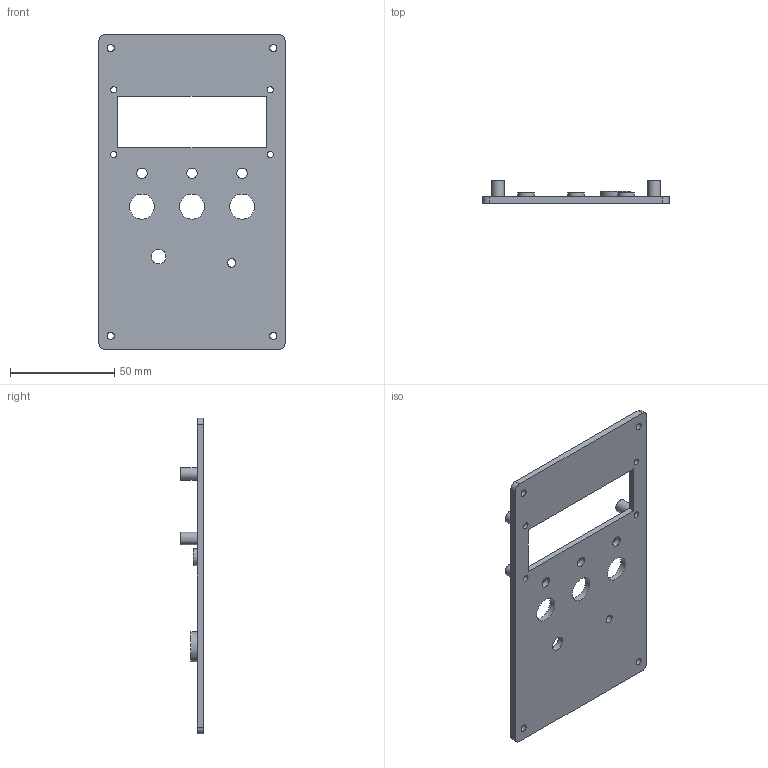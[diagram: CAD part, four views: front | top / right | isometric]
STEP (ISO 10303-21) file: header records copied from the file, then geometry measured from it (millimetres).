
FILE_DESCRIPTION(('Open CASCADE Model'),'2;1');
FILE_NAME('Open CASCADE Shape Model','2026-09-13T21:36:03',('Author'),( 'Open CASCADE'),'Open CASCADE STEP processor 7.9','Open CASCADE 7.9' ,'Unknown');
FILE_SCHEMA(('AUTOMOTIVE_DESIGN { 1 0 10303 214 1 1 1 1 }'));
Length unit declared in the file: millimetre
Products named in the file (1): Open CASCADE STEP translator 7.9 1
Bounding box: 89.2 x 11 x 151.2 mm (x, y, z)
Volume: 34703.6 mm3; surface area: 26637.7 mm2
Topology: 1 solids, 1 shells, 54 faces, 120 edges, 80 vertices
Faces by surface type: cylinder 32, plane 22
Full cylindrical faces by diameter (mm): 3 x4, 3.4 x4, 4 x1, 5 x3, 5.4 x3, 6 x4, 7 x1, 8 x3, 10.4 x1, 12 x3, 14.4 x1
Entity records: 3162 total; most frequent: CARTESIAN_POINT 535, DIRECTION 514, ORIENTED_EDGE 240, PCURVE 240, DEFINITIONAL_REPRESENTATION 240, LINE 216, VECTOR 216, CIRCLE 124
